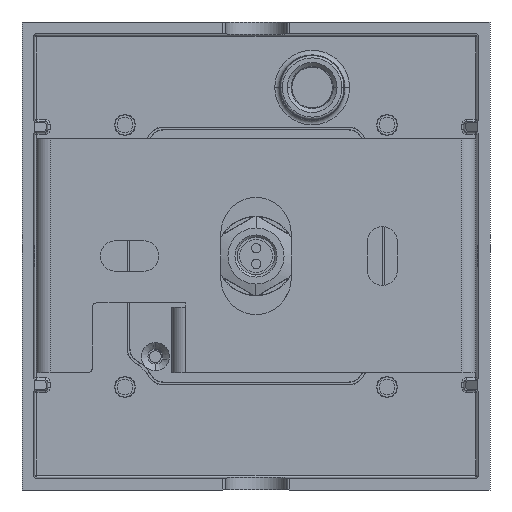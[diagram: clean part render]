
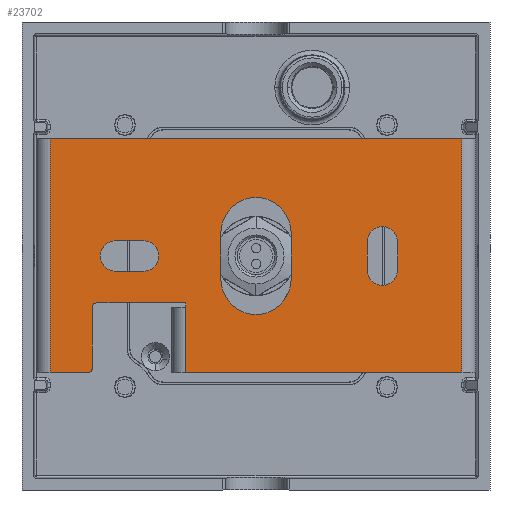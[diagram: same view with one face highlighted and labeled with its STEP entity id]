
A CAD part, front view. The second image highlights one B-rep face of the part: STEP entity #23702.
In plain terms, the highlighted planar face has unit normal (0, -1, 0).
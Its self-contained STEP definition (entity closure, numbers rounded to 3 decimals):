
#22820=DIRECTION('',(1.,0.,0.));
#22821=VECTOR('',#22820,10.);
#22822=CARTESIAN_POINT('',(-5.,11.5,7.5));
#22823=LINE('',#22822,#22821);
#22824=CARTESIAN_POINT('',(-5.,11.5,0.));
#22825=DIRECTION('',(0.,-1.,0.));
#22826=DIRECTION('',(0.,0.,1.));
#22827=AXIS2_PLACEMENT_3D('',#22824,#22825,#22826);
#22829=CARTESIAN_POINT('',(5.,11.5,0.));
#22830=DIRECTION('',(0.,-1.,0.));
#22831=DIRECTION('',(0.,0.,-1.));
#22832=AXIS2_PLACEMENT_3D('',#22829,#22830,#22831);
#22834=CARTESIAN_POINT('',(3.,11.5,-27.));
#22835=DIRECTION('',(0.,-1.,0.));
#22836=DIRECTION('',(0.,0.,-1.));
#22837=AXIS2_PLACEMENT_3D('',#22834,#22835,#22836);
#22839=DIRECTION('',(-1.,0.,0.));
#22840=VECTOR('',#22839,6.);
#22841=CARTESIAN_POINT('',(3.,11.5,-23.75));
#22842=LINE('',#22841,#22840);
#22843=CARTESIAN_POINT('',(-3.,11.5,-27.));
#22844=DIRECTION('',(0.,-1.,0.));
#22845=DIRECTION('',(0.,0.,1.));
#22846=AXIS2_PLACEMENT_3D('',#22843,#22844,#22845);
#22848=DIRECTION('',(1.,0.,0.));
#22849=VECTOR('',#22848,6.);
#22850=CARTESIAN_POINT('',(-3.,11.5,-30.25));
#22851=LINE('',#22850,#22849);
#22852=CARTESIAN_POINT('',(0.,11.5,30.));
#22853=DIRECTION('',(0.,-1.,0.));
#22854=DIRECTION('',(1.,0.,0.));
#22855=AXIS2_PLACEMENT_3D('',#22852,#22853,#22854);
#22857=DIRECTION('',(0.,0.,-1.));
#22858=VECTOR('',#22857,6.);
#22859=CARTESIAN_POINT('',(-3.25,11.5,30.));
#22860=LINE('',#22859,#22858);
#22861=CARTESIAN_POINT('',(0.,11.5,24.));
#22862=DIRECTION('',(0.,-1.,0.));
#22863=DIRECTION('',(-1.,0.,0.));
#22864=AXIS2_PLACEMENT_3D('',#22861,#22862,#22863);
#22866=DIRECTION('',(0.,0.,1.));
#22867=VECTOR('',#22866,6.);
#22868=CARTESIAN_POINT('',(3.25,11.5,24.));
#22869=LINE('',#22868,#22867);
#22870=CARTESIAN_POINT('',(-24.,11.5,36.));
#22871=DIRECTION('',(0.,-1.,0.));
#22872=DIRECTION('',(-1.,0.,0.));
#22873=AXIS2_PLACEMENT_3D('',#22870,#22871,#22872);
#22875=DIRECTION('',(0.,0.,1.));
#22876=VECTOR('',#22875,8.);
#22877=CARTESIAN_POINT('',(-25.,11.5,36.));
#22878=LINE('',#22877,#22876);
#22879=DIRECTION('',(1.,0.,0.));
#22880=VECTOR('',#22879,50.);
#22881=CARTESIAN_POINT('',(-25.,11.5,44.));
#22882=LINE('',#22881,#22880);
#22883=DIRECTION('',(0.,0.,1.));
#22884=VECTOR('',#22883,88.);
#22885=CARTESIAN_POINT('',(25.,11.5,-44.));
#22886=LINE('',#22885,#22884);
#22887=DIRECTION('',(-1.,0.,0.));
#22888=VECTOR('',#22887,50.);
#22889=CARTESIAN_POINT('',(25.,11.5,-44.));
#22890=LINE('',#22889,#22888);
#22891=DIRECTION('',(0.,0.,1.));
#22892=VECTOR('',#22891,59.);
#22893=CARTESIAN_POINT('',(-25.,11.5,-44.));
#22894=LINE('',#22893,#22892);
#22895=DIRECTION('',(1.,0.,0.));
#22896=VECTOR('',#22895,14.);
#22897=CARTESIAN_POINT('',(-25.,11.5,15.));
#22898=LINE('',#22897,#22896);
#22899=DIRECTION('',(1.,0.,0.));
#22900=VECTOR('',#22899,1.);
#22901=CARTESIAN_POINT('',(-11.,11.5,15.));
#22902=LINE('',#22901,#22900);
#22903=DIRECTION('',(0.,0.,1.));
#22904=VECTOR('',#22903,19.);
#22905=CARTESIAN_POINT('',(-10.,11.5,15.));
#22906=LINE('',#22905,#22904);
#22907=DIRECTION('',(1.,0.,0.));
#22908=VECTOR('',#22907,13.);
#22909=CARTESIAN_POINT('',(-24.,11.5,35.));
#22910=LINE('',#22909,#22908);
#23022=DIRECTION('',(-1.,0.,0.));
#23023=VECTOR('',#23022,10.);
#23024=CARTESIAN_POINT('',(5.,11.5,-7.5));
#23025=LINE('',#23024,#23023);
#23066=CARTESIAN_POINT('',(-11.,11.5,34.));
#23067=DIRECTION('',(0.,1.,0.));
#23068=DIRECTION('',(0.,0.,1.));
#23069=AXIS2_PLACEMENT_3D('',#23066,#23067,#23068);
#23440=CARTESIAN_POINT('',(-5.,11.5,7.5));
#23441=CARTESIAN_POINT('',(5.,11.5,7.5));
#23442=VERTEX_POINT('',#23440);
#23443=VERTEX_POINT('',#23441);
#23444=CARTESIAN_POINT('',(-5.,11.5,-7.5));
#23445=VERTEX_POINT('',#23444);
#23446=CARTESIAN_POINT('',(5.,11.5,-7.5));
#23447=VERTEX_POINT('',#23446);
#23448=CARTESIAN_POINT('',(3.,11.5,-30.25));
#23449=CARTESIAN_POINT('',(3.,11.5,-23.75));
#23450=VERTEX_POINT('',#23448);
#23451=VERTEX_POINT('',#23449);
#23452=CARTESIAN_POINT('',(-3.,11.5,-23.75));
#23453=VERTEX_POINT('',#23452);
#23454=CARTESIAN_POINT('',(-3.,11.5,-30.25));
#23455=VERTEX_POINT('',#23454);
#23456=CARTESIAN_POINT('',(3.25,11.5,30.));
#23457=CARTESIAN_POINT('',(-3.25,11.5,30.));
#23458=VERTEX_POINT('',#23456);
#23459=VERTEX_POINT('',#23457);
#23460=CARTESIAN_POINT('',(-3.25,11.5,24.));
#23461=VERTEX_POINT('',#23460);
#23462=CARTESIAN_POINT('',(3.25,11.5,24.));
#23463=VERTEX_POINT('',#23462);
#23472=CARTESIAN_POINT('',(25.,11.5,-44.));
#23473=CARTESIAN_POINT('',(25.,11.5,44.));
#23474=VERTEX_POINT('',#23472);
#23475=VERTEX_POINT('',#23473);
#23479=CARTESIAN_POINT('',(-25.,11.5,-44.));
#23481=VERTEX_POINT('',#23479);
#23485=CARTESIAN_POINT('',(-25.,11.5,44.));
#23487=VERTEX_POINT('',#23485);
#23568=CARTESIAN_POINT('',(-10.,11.5,15.));
#23570=VERTEX_POINT('',#23568);
#23581=CARTESIAN_POINT('',(-11.,11.5,15.));
#23583=VERTEX_POINT('',#23581);
#23584=CARTESIAN_POINT('',(-25.,11.5,15.));
#23585=VERTEX_POINT('',#23584);
#23596=CARTESIAN_POINT('',(-11.,11.5,35.));
#23598=VERTEX_POINT('',#23596);
#23600=CARTESIAN_POINT('',(-10.,11.5,34.));
#23602=VERTEX_POINT('',#23600);
#23620=CARTESIAN_POINT('',(-25.,11.5,36.));
#23621=CARTESIAN_POINT('',(-24.,11.5,35.));
#23622=VERTEX_POINT('',#23620);
#23623=VERTEX_POINT('',#23621);
#23644=CARTESIAN_POINT('',(-7.5,11.5,-32.));
#23645=DIRECTION('',(0.,-1.,0.));
#23646=DIRECTION('',(1.,0.,0.));
#23647=AXIS2_PLACEMENT_3D('',#23644,#23645,#23646);
#23648=PLANE('',#23647);
#23650=ORIENTED_EDGE('',*,*,#23649,.F.);
#23652=ORIENTED_EDGE('',*,*,#23651,.T.);
#23654=ORIENTED_EDGE('',*,*,#23653,.T.);
#23656=ORIENTED_EDGE('',*,*,#23655,.F.);
#23658=ORIENTED_EDGE('',*,*,#23657,.T.);
#23660=ORIENTED_EDGE('',*,*,#23659,.T.);
#23662=ORIENTED_EDGE('',*,*,#23661,.T.);
#23664=ORIENTED_EDGE('',*,*,#23663,.T.);
#23666=ORIENTED_EDGE('',*,*,#23665,.T.);
#23668=ORIENTED_EDGE('',*,*,#23667,.F.);
#23670=ORIENTED_EDGE('',*,*,#23669,.F.);
#23671=EDGE_LOOP('',(#23650,#23652,#23654,#23656,#23658,#23660,#23662,#23664,
#23666,#23668,#23670));
#23672=FACE_OUTER_BOUND('',#23671,.F.);
#23674=ORIENTED_EDGE('',*,*,#23673,.T.);
#23676=ORIENTED_EDGE('',*,*,#23675,.T.);
#23678=ORIENTED_EDGE('',*,*,#23677,.T.);
#23680=ORIENTED_EDGE('',*,*,#23679,.T.);
#23681=EDGE_LOOP('',(#23674,#23676,#23678,#23680));
#23682=FACE_BOUND('',#23681,.F.);
#23684=ORIENTED_EDGE('',*,*,#23683,.T.);
#23686=ORIENTED_EDGE('',*,*,#23685,.T.);
#23688=ORIENTED_EDGE('',*,*,#23687,.T.);
#23690=ORIENTED_EDGE('',*,*,#23689,.T.);
#23691=EDGE_LOOP('',(#23684,#23686,#23688,#23690));
#23692=FACE_BOUND('',#23691,.F.);
#23693=ORIENTED_EDGE('',*,*,#23633,.F.);
#23695=ORIENTED_EDGE('',*,*,#23694,.T.);
#23697=ORIENTED_EDGE('',*,*,#23696,.F.);
#23699=ORIENTED_EDGE('',*,*,#23698,.T.);
#23700=EDGE_LOOP('',(#23693,#23695,#23697,#23699));
#23701=FACE_BOUND('',#23700,.F.);
#23702=ADVANCED_FACE('',(#23672,#23682,#23692,#23701),#23648,.T.);
#22828=CIRCLE('',#22827,7.5);
#22833=CIRCLE('',#22832,7.5);
#22838=CIRCLE('',#22837,3.25);
#22847=CIRCLE('',#22846,3.25);
#22856=CIRCLE('',#22855,3.25);
#22865=CIRCLE('',#22864,3.25);
#22874=CIRCLE('',#22873,1.);
#23070=CIRCLE('',#23069,1.);
#23633=EDGE_CURVE('',#23442,#23443,#22823,.T.);
#23649=EDGE_CURVE('',#23622,#23623,#22874,.T.);
#23651=EDGE_CURVE('',#23622,#23487,#22878,.T.);
#23653=EDGE_CURVE('',#23487,#23475,#22882,.T.);
#23655=EDGE_CURVE('',#23474,#23475,#22886,.T.);
#23657=EDGE_CURVE('',#23474,#23481,#22890,.T.);
#23659=EDGE_CURVE('',#23481,#23585,#22894,.T.);
#23661=EDGE_CURVE('',#23585,#23583,#22898,.T.);
#23663=EDGE_CURVE('',#23583,#23570,#22902,.T.);
#23665=EDGE_CURVE('',#23570,#23602,#22906,.T.);
#23667=EDGE_CURVE('',#23598,#23602,#23070,.T.);
#23669=EDGE_CURVE('',#23623,#23598,#22910,.T.);
#23673=EDGE_CURVE('',#23450,#23451,#22838,.T.);
#23675=EDGE_CURVE('',#23451,#23453,#22842,.T.);
#23677=EDGE_CURVE('',#23453,#23455,#22847,.T.);
#23679=EDGE_CURVE('',#23455,#23450,#22851,.T.);
#23683=EDGE_CURVE('',#23458,#23459,#22856,.T.);
#23685=EDGE_CURVE('',#23459,#23461,#22860,.T.);
#23687=EDGE_CURVE('',#23461,#23463,#22865,.T.);
#23689=EDGE_CURVE('',#23463,#23458,#22869,.T.);
#23694=EDGE_CURVE('',#23442,#23445,#22828,.T.);
#23696=EDGE_CURVE('',#23447,#23445,#23025,.T.);
#23698=EDGE_CURVE('',#23447,#23443,#22833,.T.);
